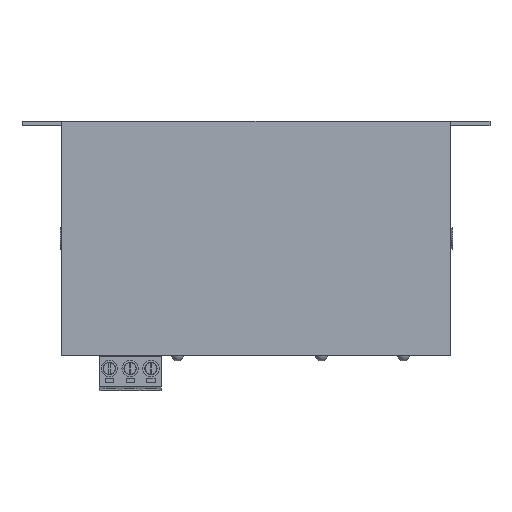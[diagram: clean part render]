
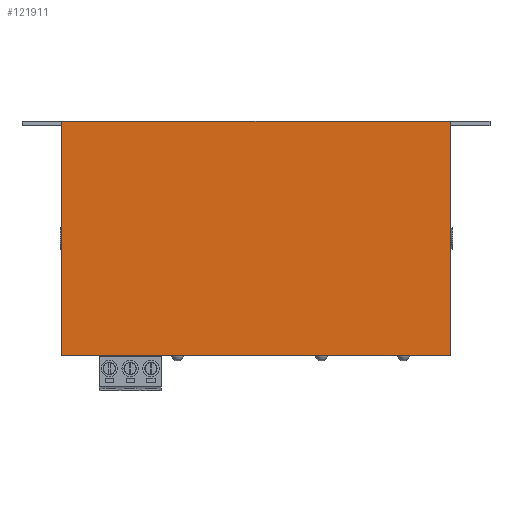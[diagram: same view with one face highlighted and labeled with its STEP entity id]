
A CAD part, top view. The second image highlights one B-rep face of the part: STEP entity #121911.
In plain terms, the highlighted planar face has unit normal (0, 0, 1).
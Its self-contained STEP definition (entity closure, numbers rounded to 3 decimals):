
#117421 = EDGE_CURVE('',#117422,#117424,#117426,.T.);
#117422 = VERTEX_POINT('',#117423);
#117423 = CARTESIAN_POINT('',(93.85,0.,26.));
#117424 = VERTEX_POINT('',#117425);
#117425 = CARTESIAN_POINT('',(93.85,57.25,26.));
#117426 = LINE('',#117427,#117428);
#117427 = CARTESIAN_POINT('',(93.85,0.,26.));
#117428 = VECTOR('',#117429,1.);
#117429 = DIRECTION('',(0.,1.,0.));
#117605 = VERTEX_POINT('',#117606);
#117606 = CARTESIAN_POINT('',(-1.15,0.,26.));
#117612 = EDGE_CURVE('',#117605,#117422,#117613,.T.);
#117613 = LINE('',#117614,#117615);
#117614 = CARTESIAN_POINT('',(-10.9,0.,26.));
#117615 = VECTOR('',#117616,1.);
#117616 = DIRECTION('',(1.,0.,0.));
#121911 = ADVANCED_FACE('',(#121912),#121930,.T.);
#121912 = FACE_BOUND('',#121913,.T.);
#121913 = EDGE_LOOP('',(#121914,#121922,#121923,#121924));
#121914 = ORIENTED_EDGE('',*,*,#121915,.F.);
#121915 = EDGE_CURVE('',#117605,#121916,#121918,.T.);
#121916 = VERTEX_POINT('',#121917);
#121917 = CARTESIAN_POINT('',(-1.15,57.25,26.));
#121918 = LINE('',#121919,#121920);
#121919 = CARTESIAN_POINT('',(-1.15,0.,26.));
#121920 = VECTOR('',#121921,1.);
#121921 = DIRECTION('',(0.,1.,0.));
#121922 = ORIENTED_EDGE('',*,*,#117612,.T.);
#121923 = ORIENTED_EDGE('',*,*,#117421,.T.);
#121924 = ORIENTED_EDGE('',*,*,#121925,.F.);
#121925 = EDGE_CURVE('',#121916,#117424,#121926,.T.);
#121926 = LINE('',#121927,#121928);
#121927 = CARTESIAN_POINT('',(-10.9,57.25,26.));
#121928 = VECTOR('',#121929,1.);
#121929 = DIRECTION('',(1.,0.,0.));
#121930 = PLANE('',#121931);
#121931 = AXIS2_PLACEMENT_3D('',#121932,#121933,#121934);
#121932 = CARTESIAN_POINT('',(-10.9,0.,26.));
#121933 = DIRECTION('',(0.,0.,1.));
#121934 = DIRECTION('',(1.,0.,0.));
